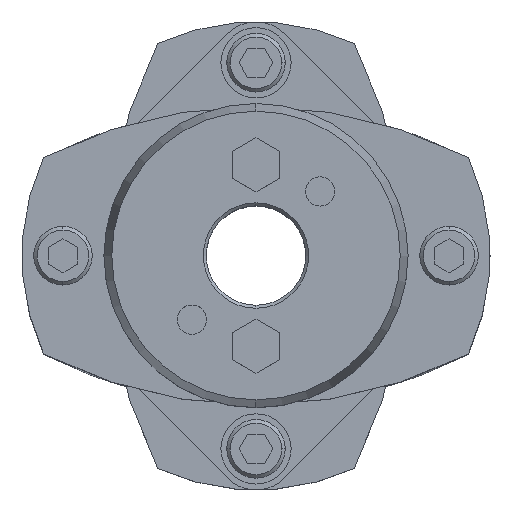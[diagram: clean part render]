
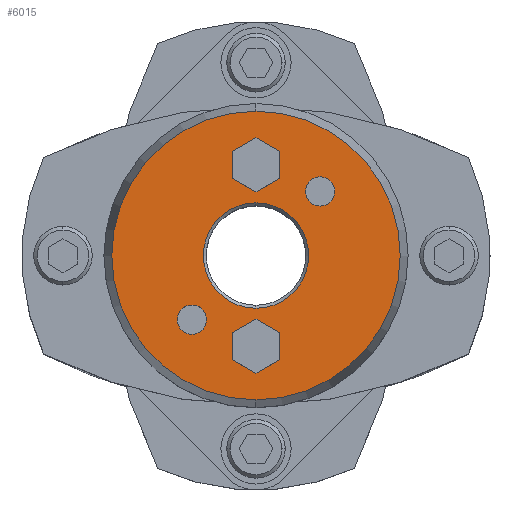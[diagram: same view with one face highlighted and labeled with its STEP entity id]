
A CAD part, top view. The second image highlights one B-rep face of the part: STEP entity #6015.
In plain terms, the highlighted planar face has unit normal (0, 0, 1).
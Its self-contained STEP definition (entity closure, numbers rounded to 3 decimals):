
#1677=CARTESIAN_POINT('',(0.,9.,45.25));
#1678=VERTEX_POINT('',#1677);
#1694=CARTESIAN_POINT('',(0.,-9.,45.25));
#1695=VERTEX_POINT('',#1694);
#1702=CARTESIAN_POINT('',(0.,0.,45.25));
#1703=DIRECTION('',(0.0,0.0,1.0));
#1704=DIRECTION('',(0.0,1.0,0.0));
#1705=AXIS2_PLACEMENT_3D('',#1702,#1703,#1704);
#1706=CIRCLE('',#1705,9.0);
#1707=EDGE_CURVE('',#1695,#1678,#1706,.T.);
#1865=CARTESIAN_POINT('',(0.,-24.66,45.25));
#1866=VERTEX_POINT('',#1865);
#1873=CARTESIAN_POINT('',(0.,24.66,45.25));
#1874=VERTEX_POINT('',#1873);
#1875=CARTESIAN_POINT('',(0.,0.,45.25));
#1876=DIRECTION('',(0.0,0.0,-1.0));
#1877=DIRECTION('',(0.0,-1.0,0.0));
#1878=AXIS2_PLACEMENT_3D('',#1875,#1876,#1877);
#1879=CIRCLE('',#1878,24.66);
#1880=EDGE_CURVE('',#1866,#1874,#1879,.T.);
#1975=CARTESIAN_POINT('',(10.96,13.46,45.25));
#1976=VERTEX_POINT('',#1975);
#1992=CARTESIAN_POINT('',(10.96,8.46,45.25));
#1993=VERTEX_POINT('',#1992);
#2000=CARTESIAN_POINT('',(10.96,10.96,45.25));
#2001=DIRECTION('',(0.0,0.0,-1.0));
#2002=DIRECTION('',(0.0,1.0,0.0));
#2003=AXIS2_PLACEMENT_3D('',#2000,#2001,#2002);
#2004=CIRCLE('',#2003,2.5);
#2005=EDGE_CURVE('',#1976,#1993,#2004,.T.);
#2017=CARTESIAN_POINT('',(-10.96,-8.46,45.25));
#2018=VERTEX_POINT('',#2017);
#2034=CARTESIAN_POINT('',(-10.96,-13.46,45.25));
#2035=VERTEX_POINT('',#2034);
#2042=CARTESIAN_POINT('',(-10.96,-10.96,45.25));
#2043=DIRECTION('',(0.0,0.0,-1.0));
#2044=DIRECTION('',(0.0,1.0,0.0));
#2045=AXIS2_PLACEMENT_3D('',#2042,#2043,#2044);
#2046=CIRCLE('',#2045,2.5);
#2047=EDGE_CURVE('',#2018,#2035,#2046,.T.);
#5259=CARTESIAN_POINT('',(0.,-10.881,45.25));
#5260=VERTEX_POINT('',#5259);
#5267=CARTESIAN_POINT('',(-4.,-13.191,45.25));
#5268=VERTEX_POINT('',#5267);
#5269=CARTESIAN_POINT('',(-4.,-13.191,45.25));
#5270=DIRECTION('',(0.866,0.5,0.0));
#5271=VECTOR('',#5270,4.619);
#5272=LINE('',#5269,#5271);
#5273=EDGE_CURVE('',#5268,#5260,#5272,.T.);
#5297=CARTESIAN_POINT('',(4.,-13.191,45.25));
#5298=VERTEX_POINT('',#5297);
#5305=CARTESIAN_POINT('',(0.,-10.881,45.25));
#5306=DIRECTION('',(0.866,-0.5,0.0));
#5307=VECTOR('',#5306,4.619);
#5308=LINE('',#5305,#5307);
#5309=EDGE_CURVE('',#5260,#5298,#5308,.T.);
#5328=CARTESIAN_POINT('',(4.,-17.809,45.25));
#5329=VERTEX_POINT('',#5328);
#5336=CARTESIAN_POINT('',(4.,-13.191,45.25));
#5337=DIRECTION('',(0.0,-1.0,0.0));
#5338=VECTOR('',#5337,4.619);
#5339=LINE('',#5336,#5338);
#5340=EDGE_CURVE('',#5298,#5329,#5339,.T.);
#5359=CARTESIAN_POINT('',(0.,-20.119,45.25));
#5360=VERTEX_POINT('',#5359);
#5367=CARTESIAN_POINT('',(4.,-17.809,45.25));
#5368=DIRECTION('',(-0.866,-0.5,0.0));
#5369=VECTOR('',#5368,4.619);
#5370=LINE('',#5367,#5369);
#5371=EDGE_CURVE('',#5329,#5360,#5370,.T.);
#5390=CARTESIAN_POINT('',(-4.,-17.809,45.25));
#5391=VERTEX_POINT('',#5390);
#5398=CARTESIAN_POINT('',(0.,-20.119,45.25));
#5399=DIRECTION('',(-0.866,0.5,0.0));
#5400=VECTOR('',#5399,4.619);
#5401=LINE('',#5398,#5400);
#5402=EDGE_CURVE('',#5360,#5391,#5401,.T.);
#5420=CARTESIAN_POINT('',(-4.,-17.809,45.25));
#5421=DIRECTION('',(0.0,1.0,0.0));
#5422=VECTOR('',#5421,4.619);
#5423=LINE('',#5420,#5422);
#5424=EDGE_CURVE('',#5391,#5268,#5423,.T.);
#5459=CARTESIAN_POINT('',(0.,20.119,45.25));
#5460=VERTEX_POINT('',#5459);
#5467=CARTESIAN_POINT('',(-4.,17.809,45.25));
#5468=VERTEX_POINT('',#5467);
#5469=CARTESIAN_POINT('',(-4.,17.809,45.25));
#5470=DIRECTION('',(0.866,0.5,0.0));
#5471=VECTOR('',#5470,4.619);
#5472=LINE('',#5469,#5471);
#5473=EDGE_CURVE('',#5468,#5460,#5472,.T.);
#5497=CARTESIAN_POINT('',(4.,17.809,45.25));
#5498=VERTEX_POINT('',#5497);
#5505=CARTESIAN_POINT('',(0.,20.119,45.25));
#5506=DIRECTION('',(0.866,-0.5,0.0));
#5507=VECTOR('',#5506,4.619);
#5508=LINE('',#5505,#5507);
#5509=EDGE_CURVE('',#5460,#5498,#5508,.T.);
#5528=CARTESIAN_POINT('',(4.,13.191,45.25));
#5529=VERTEX_POINT('',#5528);
#5536=CARTESIAN_POINT('',(4.,17.809,45.25));
#5537=DIRECTION('',(0.0,-1.0,0.0));
#5538=VECTOR('',#5537,4.619);
#5539=LINE('',#5536,#5538);
#5540=EDGE_CURVE('',#5498,#5529,#5539,.T.);
#5559=CARTESIAN_POINT('',(0.,10.881,45.25));
#5560=VERTEX_POINT('',#5559);
#5567=CARTESIAN_POINT('',(4.,13.191,45.25));
#5568=DIRECTION('',(-0.866,-0.5,0.0));
#5569=VECTOR('',#5568,4.619);
#5570=LINE('',#5567,#5569);
#5571=EDGE_CURVE('',#5529,#5560,#5570,.T.);
#5590=CARTESIAN_POINT('',(-4.,13.191,45.25));
#5591=VERTEX_POINT('',#5590);
#5598=CARTESIAN_POINT('',(0.,10.881,45.25));
#5599=DIRECTION('',(-0.866,0.5,0.0));
#5600=VECTOR('',#5599,4.619);
#5601=LINE('',#5598,#5600);
#5602=EDGE_CURVE('',#5560,#5591,#5601,.T.);
#5620=CARTESIAN_POINT('',(-4.,13.191,45.25));
#5621=DIRECTION('',(0.0,1.0,0.0));
#5622=VECTOR('',#5621,4.619);
#5623=LINE('',#5620,#5622);
#5624=EDGE_CURVE('',#5591,#5468,#5623,.T.);
#5650=CARTESIAN_POINT('',(-10.96,-10.96,45.25));
#5651=DIRECTION('',(0.0,0.0,-1.0));
#5652=DIRECTION('',(0.0,1.0,0.0));
#5653=AXIS2_PLACEMENT_3D('',#5650,#5651,#5652);
#5654=CIRCLE('',#5653,2.5);
#5655=EDGE_CURVE('',#2035,#2018,#5654,.T.);
#5684=CARTESIAN_POINT('',(10.96,10.96,45.25));
#5685=DIRECTION('',(0.0,0.0,-1.0));
#5686=DIRECTION('',(0.0,1.0,0.0));
#5687=AXIS2_PLACEMENT_3D('',#5684,#5685,#5686);
#5688=CIRCLE('',#5687,2.5);
#5689=EDGE_CURVE('',#1993,#1976,#5688,.T.);
#5962=CARTESIAN_POINT('',(0.,0.,45.25));
#5963=DIRECTION('',(0.0,0.0,-1.0));
#5964=DIRECTION('',(0.0,-1.0,0.0));
#5965=AXIS2_PLACEMENT_3D('',#5962,#5963,#5964);
#5966=CIRCLE('',#5965,24.66);
#5967=EDGE_CURVE('',#1874,#1866,#5966,.T.);
#5972=CARTESIAN_POINT('',(0.,2.364,45.25));
#5973=DIRECTION('',(0.0,0.0,1.0));
#5974=DIRECTION('',(0.0,1.0,0.0));
#5975=AXIS2_PLACEMENT_3D('',#5972,#5973,#5974);
#5976=PLANE('',#5975);
#5977=ORIENTED_EDGE('',*,*,#5967,.F.);
#5978=ORIENTED_EDGE('',*,*,#1880,.F.);
#5979=EDGE_LOOP('',(#5977,#5978));
#5980=FACE_OUTER_BOUND('',#5979,.T.);
#5981=ORIENTED_EDGE('',*,*,#5273,.T.);
#5982=ORIENTED_EDGE('',*,*,#5309,.T.);
#5983=ORIENTED_EDGE('',*,*,#5340,.T.);
#5984=ORIENTED_EDGE('',*,*,#5371,.T.);
#5985=ORIENTED_EDGE('',*,*,#5402,.T.);
#5986=ORIENTED_EDGE('',*,*,#5424,.T.);
#5987=EDGE_LOOP('',(#5981,#5982,#5983,#5984,#5985,#5986));
#5988=FACE_BOUND('',#5987,.T.);
#5989=ORIENTED_EDGE('',*,*,#5473,.T.);
#5990=ORIENTED_EDGE('',*,*,#5509,.T.);
#5991=ORIENTED_EDGE('',*,*,#5540,.T.);
#5992=ORIENTED_EDGE('',*,*,#5571,.T.);
#5993=ORIENTED_EDGE('',*,*,#5602,.T.);
#5994=ORIENTED_EDGE('',*,*,#5624,.T.);
#5995=EDGE_LOOP('',(#5989,#5990,#5991,#5992,#5993,#5994));
#5996=FACE_BOUND('',#5995,.T.);
#5997=ORIENTED_EDGE('',*,*,#2047,.T.);
#5998=ORIENTED_EDGE('',*,*,#5655,.T.);
#5999=EDGE_LOOP('',(#5997,#5998));
#6000=FACE_BOUND('',#5999,.T.);
#6001=ORIENTED_EDGE('',*,*,#2005,.T.);
#6002=ORIENTED_EDGE('',*,*,#5689,.T.);
#6003=EDGE_LOOP('',(#6001,#6002));
#6004=FACE_BOUND('',#6003,.T.);
#6005=ORIENTED_EDGE('',*,*,#1707,.F.);
#6006=CARTESIAN_POINT('',(0.,0.,45.25));
#6007=DIRECTION('',(0.0,0.0,1.0));
#6008=DIRECTION('',(0.0,1.0,0.0));
#6009=AXIS2_PLACEMENT_3D('',#6006,#6007,#6008);
#6010=CIRCLE('',#6009,9.0);
#6011=EDGE_CURVE('',#1678,#1695,#6010,.T.);
#6012=ORIENTED_EDGE('',*,*,#6011,.F.);
#6013=EDGE_LOOP('',(#6005,#6012));
#6014=FACE_BOUND('',#6013,.T.);
#6015=ADVANCED_FACE('',(#5980,#5988,#5996,#6000,#6004,#6014),#5976,.T.);
